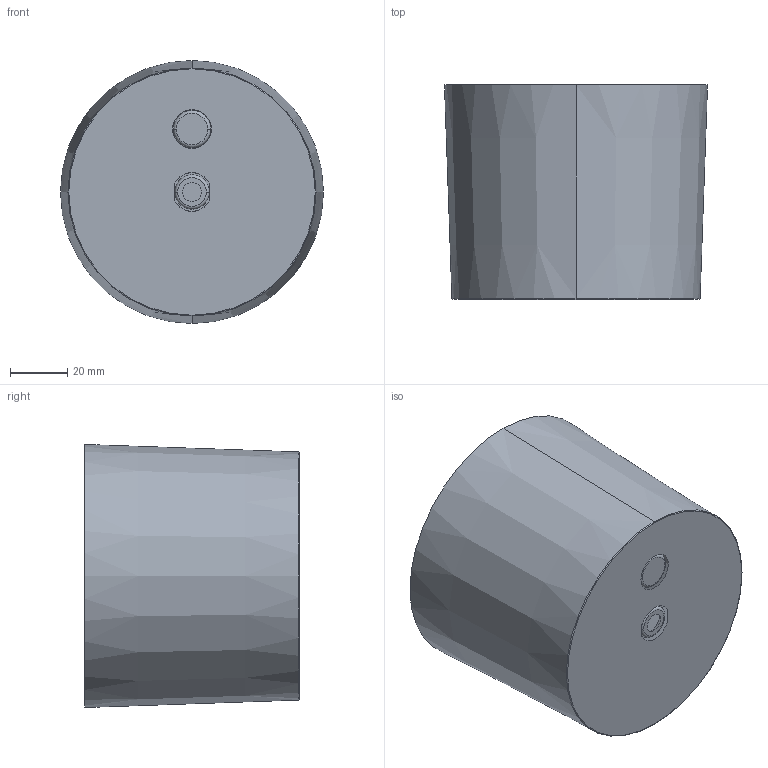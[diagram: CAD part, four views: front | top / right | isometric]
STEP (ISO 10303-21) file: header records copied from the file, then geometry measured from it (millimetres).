
FILE_DESCRIPTION((''),'2;1');
FILE_NAME('PRT0001','2025-07-30T11:50:14',('Piccioli'),(''),'CREO PARAMETRIC BY PTC INC, 2025010','CREO PARAMETRIC BY PTC INC, 2025010','');
FILE_SCHEMA(('CONFIG_CONTROL_DESIGN'));
Length unit declared in the file: millimetre
Products named in the file (1): PRT0001
Bounding box: 92 x 75.13 x 92 mm (x, y, z)
Surface area: 33791.4 mm2 (no closed solid volume)
Topology: 0 solids, 23 shells, 36 faces, 231 edges, 219 vertices
Faces by surface type: plane 22, torus 11, cone 3
Entity records: 3910 total; most frequent: CARTESIAN_POINT 2342, ORIENTED_EDGE 255, DIRECTION 246, EDGE_CURVE 231, VERTEX_POINT 219, B_SPLINE_CURVE_WITH_KNOTS 116, AXIS2_PLACEMENT_3D 95, CIRCLE 59
